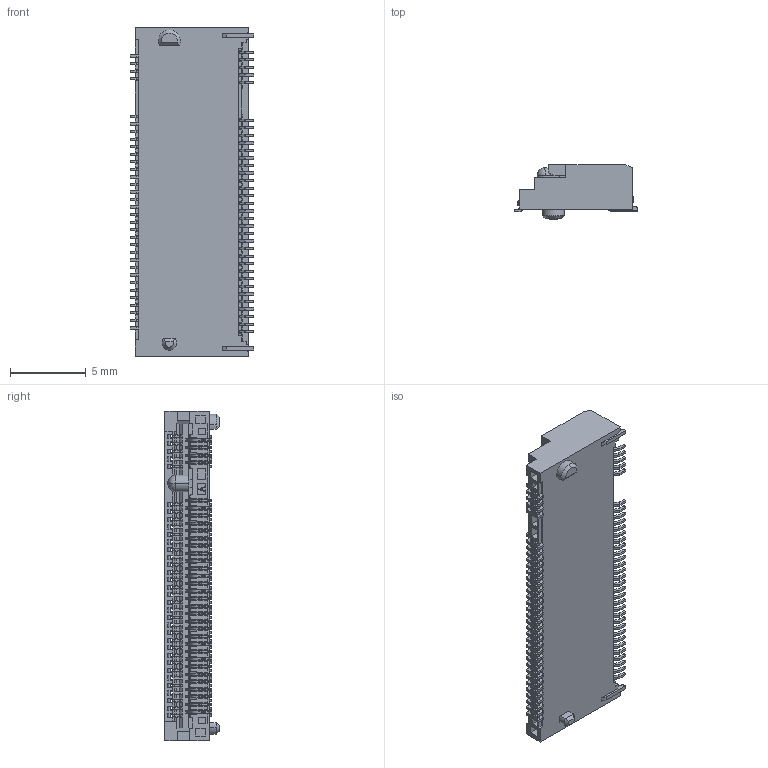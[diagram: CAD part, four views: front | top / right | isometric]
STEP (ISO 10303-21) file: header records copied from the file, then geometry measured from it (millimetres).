
FILE_DESCRIPTION((''),'2;1');
FILE_NAME('AC-12-NF01-XXX_M_2_3_2H_M_KEY_G','2026-08-14T',('PMT1 SFT'),(''),'PRO/ENGINEER BY PARAMETRIC TECHNOLOGY CORPORATION, 2011490','PRO/ENGINEER BY PARAMETRIC TECHNOLOGY CORPORATION, 2011490','');
FILE_SCHEMA(('CONFIG_CONTROL_DESIGN'));
Products named in the file (1): AC-12-NF01-XXX_M_2_3_2H_M_KEY_G
Bounding box: 8.2 x 3.6 x 21.8 mm (x, y, z)
Volume: 288.5 mm3; surface area: 1617.1 mm2
Topology: 1 solids, 1 shells, 6779 faces, 20892 edges, 13576 vertices
Faces by surface type: plane 5093, cylinder 1681, cone 3, bspline 2
Entity records: 231759 total; most frequent: CARTESIAN_POINT 42027, ORIENTED_EDGE 41780, DIRECTION 37747, EDGE_CURVE 20890, VECTOR 17295, LINE 17295, VERTEX_POINT 13576, AXIS2_PLACEMENT_3D 10226
